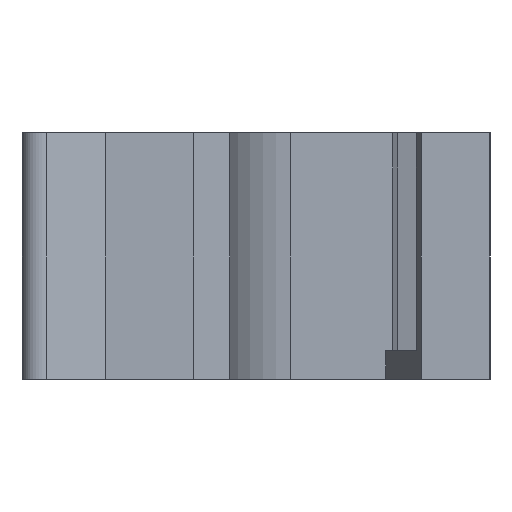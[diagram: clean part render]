
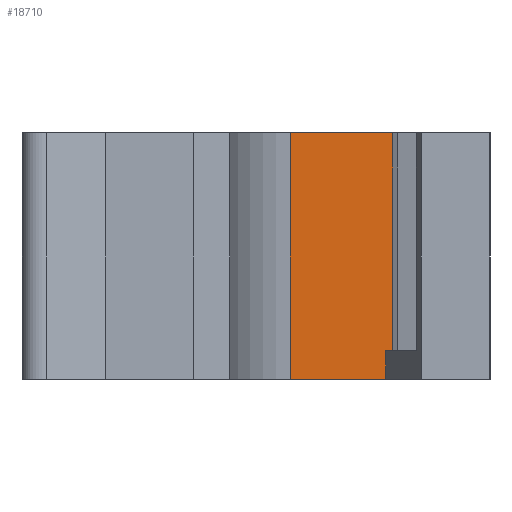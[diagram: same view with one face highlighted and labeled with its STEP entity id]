
A CAD part, left-side view. The second image highlights one B-rep face of the part: STEP entity #18710.
In plain terms, the highlighted planar face has unit normal (-1, 0, 0).
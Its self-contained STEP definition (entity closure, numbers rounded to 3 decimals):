
#4020=CARTESIAN_POINT('',(-36.27,1.808,0.));
#4030=VERTEX_POINT('',#4020);
#4060=CARTESIAN_POINT('',(-36.27,0.,
0.));
#4070=DIRECTION('',(0.,-1.,0.));
#4080=VECTOR('',#4070,1.);
#4090=LINE('',#4060,#4080);
#4100=CARTESIAN_POINT('',(-36.27,-2.068,0.));
#4110=VERTEX_POINT('',#4100);
#4120=EDGE_CURVE('',#4030,#4110,#4090,.T.);
#6800=CARTESIAN_POINT('',(-36.27,-2.347,10.));
#6810=VERTEX_POINT('',#6800);
#6840=CARTESIAN_POINT('',(-36.27,0.,10.));
#6850=DIRECTION('',(0.,-1.,0.));
#6860=VECTOR('',#6850,1.);
#6870=LINE('',#6840,#6860);
#6880=CARTESIAN_POINT('',(-36.27,1.808,10.));
#6890=VERTEX_POINT('',#6880);
#6900=EDGE_CURVE('',#6890,#6810,#6870,.T.);
#11340=CARTESIAN_POINT('',(-36.27,-2.068,0.));
#11350=DIRECTION('',(0.,0.,1.));
#11360=VECTOR('',#11350,1.);
#11370=LINE('',#11340,#11360);
#11380=CARTESIAN_POINT('',(-36.27,-2.068,1.15));
#11390=VERTEX_POINT('',#11380);
#11400=EDGE_CURVE('',#4110,#11390,#11370,.T.);
#18230=CARTESIAN_POINT('',(-36.27,1.808,5.));
#18240=DIRECTION('',(0.,0.,1.));
#18250=VECTOR('',#18240,1.);
#18260=LINE('',#18230,#18250);
#18270=EDGE_CURVE('',#4030,#6890,#18260,.T.);
#18460=CARTESIAN_POINT('',(-36.27,-4.75,0.));
#18470=DIRECTION('',(1.,0.,0.));
#18480=DIRECTION('',(0.,-1.,0.));
#18490=AXIS2_PLACEMENT_3D('',#18460,#18470,#18480);
#18500=PLANE('',#18490);
#18510=ORIENTED_EDGE('',*,*,#11400,.T.);
#18520=ORIENTED_EDGE('',*,*,#4120,.T.);
#18530=ORIENTED_EDGE('',*,*,#18270,.F.);
#18540=ORIENTED_EDGE('',*,*,#6900,.F.);
#18550=CARTESIAN_POINT('',(-36.27,-2.347,0.));
#18560=DIRECTION('',(0.,0.,-1.));
#18570=VECTOR('',#18560,1.);
#18580=LINE('',#18550,#18570);
#18590=CARTESIAN_POINT('',(-36.27,-2.347,1.15));
#18600=VERTEX_POINT('',#18590);
#18610=EDGE_CURVE('',#6810,#18600,#18580,.T.);
#18620=ORIENTED_EDGE('',*,*,#18610,.F.);
#18630=CARTESIAN_POINT('',(-36.27,0.,1.15));
#18640=DIRECTION('',(0.,-1.,0.));
#18650=VECTOR('',#18640,1.);
#18660=LINE('',#18630,#18650);
#18670=EDGE_CURVE('',#11390,#18600,#18660,.T.);
#18680=ORIENTED_EDGE('',*,*,#18670,.T.);
#18690=EDGE_LOOP('',(#18680,#18620,#18540,#18530,#18520,#18510));
#18700=FACE_OUTER_BOUND('',#18690,.T.);
#18710=ADVANCED_FACE('',(#18700),#18500,.F.);
